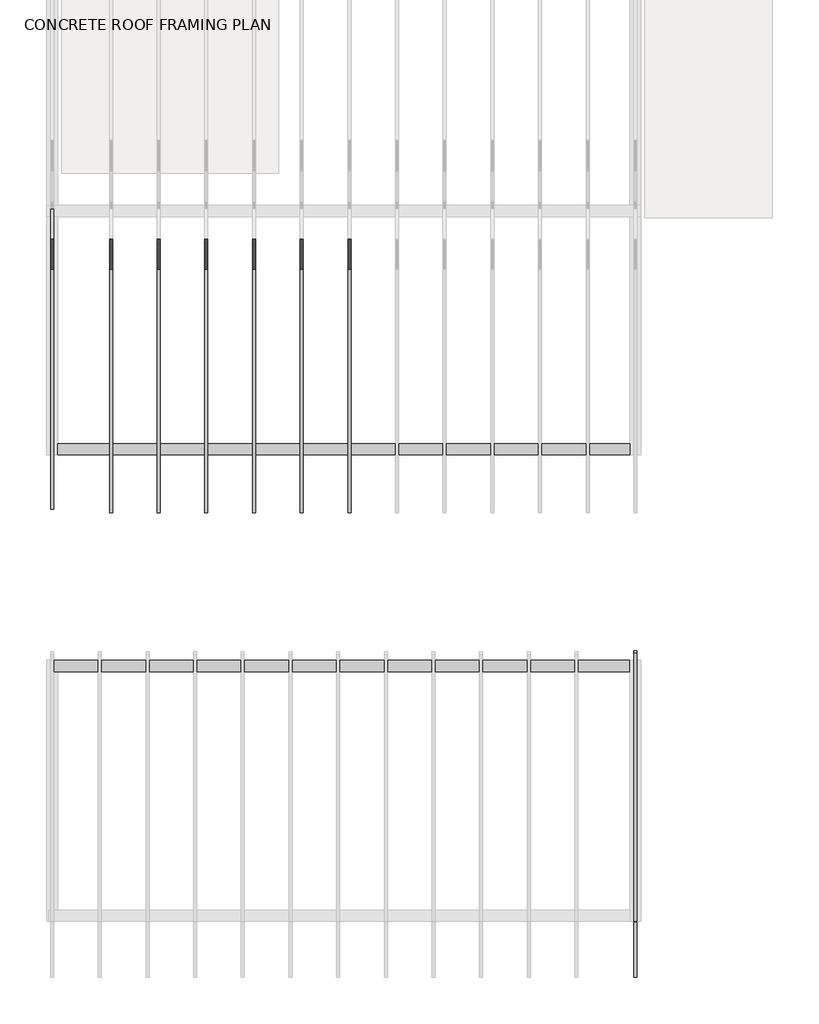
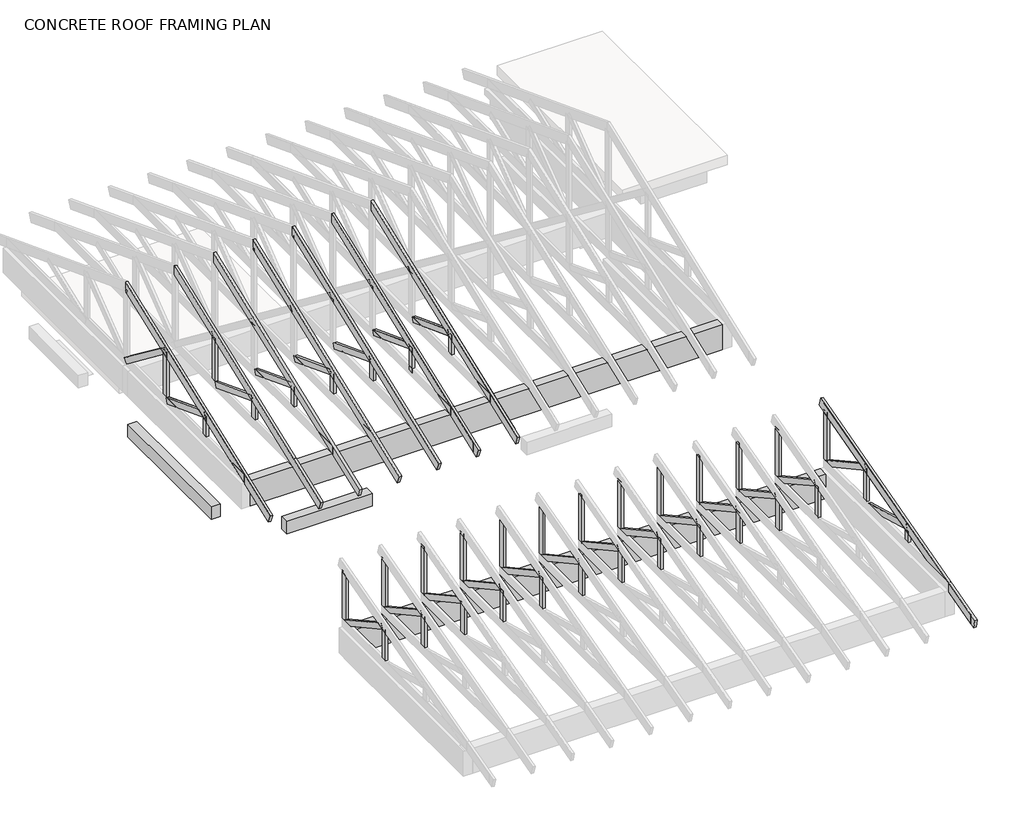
# One storey, part 2 of 6: 70 beams.
"""IFC4 building model written with IfcOpenShell, lengths in millimetres."""

from ifc_helpers import new_model, si_unit, frame, origin, place, context, project, spatial, polyline, outline, extrude, faceted_brep, element, save

model = new_model("IFC4")

# Units and contexts
model_context = context("Model", 3, world=origin())
ifc_project = project(units=[si_unit("LENGTHUNIT", "METRE", prefix="MILLI")], contexts=[model_context])

# Site, building, storey
site = spatial("IfcSite", under=ifc_project)
building = spatial("IfcBuilding", under=site)
storey = spatial("IfcBuildingStorey", under=building, Name="CONCRETE ROOF FRAMING PLAN", Elevation=3048.0)

# Beams
placement = place(None, origin())
element("IfcBeam", 1, ObjectType="Concrete-Rectangular Beam : 5 5/8 x 16", at=placement, inside=storey, context=model_context, shape_type="Brep", body=[
    faceted_brep([(77.7875, -2762.2905437, 2438.4), (77.7875, -2619.4155437, 2438.4), (77.7875, -2619.4155437, 2437.4750123), (77.7875, -2762.2905437, 2437.4750123), (7467.6, -2762.2905437, 2438.4), (7467.6, -2619.4155437, 2438.4), (7467.6, -2619.4155437, 2032.0), (3009.9, -2619.4155437, 2032.0), (152.4, -2619.4155437, 2032.0), (152.4, -2619.4155437, 2437.4750123), (7467.6, -2762.2905437, 2032.0), (3009.9, -2762.2905437, 2032.0), (152.4, -2762.2905437, 2032.0), (152.4, -2762.2905437, 2437.4750123)], [[[0, 1, 2, 3]], [[1, 0, 4, 5]], [[5, 6, 7, 8, 9, 2, 1]], [[6, 10, 11, 12, 8, 7]], [[10, 4, 0, 3, 13, 12, 11]], [[6, 5, 4, 10]], [[13, 9, 8, 12]], [[9, 13, 3, 2]]]),
])
element("IfcBeam", 2, ObjectType="Concrete-Rectangular Beam : 5 5/8 x 16", at=placement, inside=storey, context=model_context, shape_type="Brep", body=[
    faceted_brep([(152.4, 152.4, 3200.4), (152.4, 9.525, 3200.4), (7467.6, 9.525, 3200.4), (7467.6, 152.4, 3200.4), (152.4, 9.525, 2794.0), (3387.725, 9.525, 2794.0), (7467.6, 9.525, 2794.0), (152.4, 152.4, 2794.0), (3387.725, 152.4, 2794.0), (7467.6, 152.4, 2794.0)], [[[0, 1, 2, 3]], [[1, 4, 5, 6, 2]], [[4, 7, 8, 9, 6, 5]], [[7, 0, 3, 9, 8]], [[1, 0, 7, 4]], [[3, 2, 6, 9]]]),
])
element("IfcBeam", 3, ObjectType="Concrete-Rectangular Beam : 5 5/8 x 8", at=placement, inside=storey, context=model_context, shape_type="SweptSolid", body=[
    extrude(outline(polyline([(152.4, 812.8000536), (9.525, 812.8000536), (9.525, 3048.0000536), (152.4, 3048.0000536), (152.4, 812.8000536)])), frame((0.0, 0.0, 2133.6), z_axis=(0.0, 0.0, 1.0), x_axis=(1.0, 0.0, 0.0)), (0.0, 0.0, 1.0), 203.2),
])
element("IfcBeam", 4, ObjectType="Concrete-Rectangular Beam : 5 5/8 x 8", at=placement, inside=storey, context=model_context, shape_type="SweptSolid", body=[
    extrude(outline(polyline([(2041.525, 152.4), (2041.525, 9.525), (720.725, 9.525), (720.725, 152.4), (2041.525, 152.4)])), frame((0.0, 0.0, 2133.6), z_axis=(0.0, 0.0, 1.0), x_axis=(1.0, 0.0, 0.0)), (0.0, 0.0, 1.0), 203.2),
])
element("IfcBeam", 5, ObjectType="Dimension Lumber : 2x4", at=placement, inside=storey, context=model_context, shape_type="SweptSolid", body=[
    extrude(outline(polyline([(61.9125, 2090.7374888), (61.9125, 2179.6374888), (100.0125, 2179.6374888), (100.0125, 2090.7374888), (61.9125, 2090.7374888)])), frame((0.0, 0.0, 3340.1), z_axis=(0.0, 0.0, 1.0), x_axis=(1.0, 0.0, 0.0)), (0.0, 0.0, 1.0), 742.95),
    extrude(outline(polyline([(2179.6374888, 4025.2587321), (2179.6374888, 3340.1), (2090.7374888, 3340.1), (2090.7374888, 3991.2909709), (2179.6374888, 4025.2587321)])), frame((61.9125, 0.0, 0.0), z_axis=(1.0, 0.0, 0.0), x_axis=(0.0, 1.0, 0.0)), (0.0, 0.0, 1.0), 38.1),
])
element("IfcBeam", 6, ObjectType="Dimension Lumber : 2x4", at=placement, inside=storey, context=model_context, shape_type="SweptSolid", body=[
    extrude(outline(polyline([(61.9125, 1027.1124888), (61.9125, 1116.0124888), (100.0125, 1116.0124888), (100.0125, 1027.1124888), (61.9125, 1027.1124888)])), frame((0.0, 0.0, 3340.1), z_axis=(0.0, 0.0, 1.0), x_axis=(1.0, 0.0, 0.0)), (0.0, 0.0, 1.0), 336.55),
    extrude(outline(polyline([(1116.0124888, 3618.8587321), (1116.0124888, 3340.1), (1027.1124888, 3340.1), (1027.1124888, 3584.8909709), (1116.0124888, 3618.8587321)])), frame((61.9125, 0.0, 0.0), z_axis=(1.0, 0.0, 0.0), x_axis=(0.0, 1.0, 0.0)), (0.0, 0.0, 1.0), 38.1),
])
element("IfcBeam", 7, ObjectType="Dimension Lumber : 2x4", at=placement, inside=storey, context=model_context, shape_type="SweptSolid", body=[
    extrude(outline(polyline([(0.0, -38.1), (0.0, 0.0), (1338.6343715, 0.0), (1338.6343715, -38.1), (0.0, -38.1)])), frame((61.9125, 2108.1980727, 4047.7318188), z_axis=(0.0, 0.6071859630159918, 0.7945597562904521), x_axis=(0.0, 0.7945597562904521, -0.6071859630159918)), (0.0, 0.0, 1.0), 88.9),
    extrude(outline(polyline([(2108.1980727, 4047.7318188), (2162.1769048, 4118.3681812), (3180.6137825, 3340.1), (3034.2006481, 3340.1), (2108.1980727, 4047.7318188)])), frame((61.9125, 0.0, 0.0), z_axis=(1.0, 0.0, 0.0), x_axis=(0.0, 1.0, 0.0)), (0.0, 0.0, 1.0), 38.1),
    extrude(outline(polyline([(2249.2253949, 4051.847544), (3180.6137825, 3340.1), (3034.2006481, 3340.1), (2151.6166386, 4014.552258), (2249.2253949, 4051.847544)])), frame((61.9125, 0.0, 0.0), z_axis=(1.0, 0.0, 0.0), x_axis=(0.0, 1.0, 0.0)), (0.0, 0.0, 1.0), 38.1),
])
element("IfcBeam", 8, ObjectType="Dimension Lumber : 2x4", at=placement, inside=storey, context=model_context, shape_type="SweptSolid", body=[
    extrude(outline(polyline([(0.0, -38.1), (0.0, 0.0), (1091.0373938, 0.0), (1091.0373938, -38.1), (0.0, -38.1)])), frame((61.9125, 1055.6972704, 3635.1277488), z_axis=(0.0, 0.35692279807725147, 0.9341338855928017), x_axis=(0.0, 0.9341338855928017, -0.35692279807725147)), (0.0, 0.0, 1.0), 88.9),
    extrude(outline(polyline([(1055.6972704, 3635.1277488), (1087.4277071, 3718.1722512), (2076.9136771, 3340.1), (1827.8402067, 3340.1), (1055.6972704, 3635.1277488)])), frame((61.9125, 0.0, 0.0), z_axis=(1.0, 0.0, 0.0), x_axis=(0.0, 1.0, 0.0)), (0.0, 0.0, 1.0), 38.1),
    extrude(outline(polyline([(1231.6811483, 3663.0545185), (2076.9136771, 3340.1), (1827.8402067, 3340.1), (1107.1444131, 3615.4703331), (1231.6811483, 3663.0545185)])), frame((61.9125, 0.0, 0.0), z_axis=(1.0, 0.0, 0.0), x_axis=(0.0, 1.0, 0.0)), (0.0, 0.0, 1.0), 38.1),
])
element("IfcBeam", 9, ObjectType="Dimension Lumber : 2x4", at=placement, inside=storey, context=model_context, shape_type="SweptSolid", body=[
    extrude(outline(polyline([(7558.0875, -2708.3155437), (7519.9875, -2708.3155437), (7519.9875, -2619.4155437), (7558.0875, -2619.4155437), (7558.0875, -2708.3155437)])), frame((0.0, 0.0, 2578.1), z_axis=(0.0, 0.0, 1.0), x_axis=(1.0, 0.0, 0.0)), (0.0, 0.0, 1.0), 813.3340522),
    extrude(outline(polyline([(-2619.4155437, 3350.2104622), (-2619.4155437, 2578.1), (-2708.3155437, 2578.1), (-2708.3155437, 3325.7799278), (-2619.4155437, 3350.2104622)])), frame((7519.9875, 0.0, 0.0), z_axis=(1.0, 0.0, 0.0), x_axis=(0.0, 1.0, 0.0)), (0.0, 0.0, 1.0), 38.1),
])
element("IfcBeam", 10, ObjectType="Dimension Lumber : 2x4", at=placement, inside=storey, context=model_context, shape_type="SweptSolid", body=[
    extrude(outline(polyline([(7558.0875, -3772.998877), (7519.9875, -3772.998877), (7519.9875, -3684.098877), (7558.0875, -3684.098877), (7558.0875, -3772.998877)])), frame((0.0, 0.0, 2578.1), z_axis=(0.0, 0.0, 1.0), x_axis=(1.0, 0.0, 0.0)), (0.0, 0.0, 1.0), 539.75),
    extrude(outline(polyline([(-3684.098877, 3057.6257293), (-3684.098877, 2578.1), (-3772.998877, 2578.1), (-3772.998877, 3033.195195), (-3684.098877, 3057.6257293)])), frame((7519.9875, 0.0, 0.0), z_axis=(1.0, 0.0, 0.0), x_axis=(0.0, 1.0, 0.0)), (0.0, 0.0, 1.0), 38.1),
])
element("IfcBeam", 11, ObjectType="Dimension Lumber : 2x4", at=placement, inside=storey, context=model_context, shape_type="SweptSolid", body=[
    extrude(outline(polyline([(7558.0875, -4882.1322103), (7519.9875, -4882.1322103), (7519.9875, -4793.2322103), (7558.0875, -4793.2322103), (7558.0875, -4882.1322103)])), frame((0.0, 0.0, 2578.1), z_axis=(0.0, 0.0, 1.0), x_axis=(1.0, 0.0, 0.0)), (0.0, 0.0, 1.0), 188.8521123),
    extrude(outline(polyline([(-4793.2322103, 2752.8257293), (-4793.2322103, 2578.1), (-4882.1322103, 2578.1), (-4882.1322103, 2728.395195), (-4793.2322103, 2752.8257293)])), frame((7519.9875, 0.0, 0.0), z_axis=(1.0, 0.0, 0.0), x_axis=(0.0, 1.0, 0.0)), (0.0, 0.0, 1.0), 38.1),
])
element("IfcBeam", 12, ObjectType="Dimension Lumber : 2x4", at=placement, inside=storey, context=model_context, shape_type="SweptSolid", body=[
    extrude(outline(polyline([(0.0, 38.1), (1214.8966639, 38.1), (1214.8966639, 0.0), (0.0, 0.0), (0.0, 38.1)])), frame((7558.0875, -3749.9587496, 3078.8959263), z_axis=(0.0, 0.4816619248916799, 0.8763571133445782), x_axis=(0.0, 0.8763571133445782, -0.4816619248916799)), (0.0, 0.0, 1.0), 88.9),
    extrude(outline(polyline([(-3579.1593035, 3086.4640854), (-2642.4556711, 2571.634608), (-2685.2754162, 2493.7264607), (-3702.2054976, 3052.6498641), (-3579.1593035, 3086.4640854)])), frame((7519.9875, 0.0, 0.0), z_axis=(1.0, 0.0, 0.0), x_axis=(0.0, 1.0, 0.0)), (0.0, 0.0, 1.0), 38.1),
    extrude(outline(polyline([(-3579.1593035, 3086.4640854), (-2654.2190926, 2578.1), (-2838.7883836, 2578.1), (-3702.2054976, 3052.6498641), (-3579.1593035, 3086.4640854)])), frame((7519.9875, 0.0, 0.0), z_axis=(1.0, 0.0, 0.0), x_axis=(0.0, 1.0, 0.0)), (0.0, 0.0, 1.0), 38.1),
])
element("IfcBeam", 13, ObjectType="Dimension Lumber : 2x4", at=placement, inside=storey, context=model_context, shape_type="SweptSolid", body=[
    extrude(outline(polyline([(0.0, 38.1), (1104.1541677, 38.1), (1104.1541677, 0.0), (0.0, 0.0), (0.0, 38.1)])), frame((7558.0875, -4849.4608113, 2770.1889797), z_axis=(0.0, 0.26498539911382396, 0.964252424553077), x_axis=(0.0, 0.964252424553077, -0.26498539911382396)), (0.0, 0.0, 1.0), 88.9),
    extrude(outline(polyline([(-4622.0099499, 2799.8791749), (-3761.220276, 2563.3262874), (-3784.777478, 2477.6042469), (-4789.7550414, 2753.7812872), (-4622.0099499, 2799.8791749)])), frame((7519.9875, 0.0, 0.0), z_axis=(1.0, 0.0, 0.0), x_axis=(0.0, 1.0, 0.0)), (0.0, 0.0, 1.0), 38.1),
    extrude(outline(polyline([(-4622.0099499, 2799.8791749), (-3814.9801745, 2578.1), (-4150.4703573, 2578.1), (-4789.7550414, 2753.7812872), (-4622.0099499, 2799.8791749)])), frame((7519.9875, 0.0, 0.0), z_axis=(1.0, 0.0, 0.0), x_axis=(0.0, 1.0, 0.0)), (0.0, 0.0, 1.0), 38.1),
])
element("IfcBeam", 14, ObjectType="Dimension Lumber : 2x4", at=placement, inside=storey, context=model_context, shape_type="SweptSolid", body=[
    extrude(outline(polyline([(100.0125, -2708.3155437), (61.9125, -2708.3155437), (61.9125, -2619.4155437), (100.0125, -2619.4155437), (100.0125, -2708.3155437)])), frame((0.0, 0.0, 2578.1), z_axis=(0.0, 0.0, 1.0), x_axis=(1.0, 0.0, 0.0)), (0.0, 0.0, 1.0), 795.6290571),
    extrude(outline(polyline([(-2619.4155437, 3350.2104622), (-2619.4155437, 2578.1), (-2708.3155437, 2578.1), (-2708.3155437, 3325.7799278), (-2619.4155437, 3350.2104622)])), frame((61.9125, 0.0, 0.0), z_axis=(1.0, 0.0, 0.0), x_axis=(0.0, 1.0, 0.0)), (0.0, 0.0, 1.0), 38.1),
])
element("IfcBeam", 15, ObjectType="Dimension Lumber : 2x4", at=placement, inside=storey, context=model_context, shape_type="SweptSolid", body=[
    extrude(outline(polyline([(100.0125, -3772.998877), (61.9125, -3772.998877), (61.9125, -3684.098877), (100.0125, -3684.098877), (100.0125, -3772.998877)])), frame((0.0, 0.0, 2578.1), z_axis=(0.0, 0.0, 1.0), x_axis=(1.0, 0.0, 0.0)), (0.0, 0.0, 1.0), 507.6799177),
    extrude(outline(polyline([(-3684.098877, 3057.6257293), (-3684.098877, 2578.1), (-3772.998877, 2578.1), (-3772.998877, 3033.195195), (-3684.098877, 3057.6257293)])), frame((61.9125, 0.0, 0.0), z_axis=(1.0, 0.0, 0.0), x_axis=(0.0, 1.0, 0.0)), (0.0, 0.0, 1.0), 38.1),
])
element("IfcBeam", 16, ObjectType="Dimension Lumber : 2x4", at=placement, inside=storey, context=model_context, shape_type="SweptSolid", body=[
    extrude(outline(polyline([(0.0, 38.1), (1133.3802377, 38.1), (1133.3802377, 0.0), (0.0, 0.0), (0.0, 38.1)])), frame((100.0125, -3705.5087496, 3054.465392), z_axis=(0.0, 0.4816619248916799, 0.8763571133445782), x_axis=(0.0, 0.8763571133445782, -0.4816619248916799)), (0.0, 0.0, 1.0), 88.9),
    extrude(outline(polyline([(-3662.6890044, 3132.3735393), (-2669.4431711, 2586.4674325), (-2674.0420653, 2578.1), (-2838.7883836, 2578.1), (-3705.5087496, 3054.465392), (-3662.6890044, 3132.3735393)])), frame((61.9125, 0.0, 0.0), z_axis=(1.0, 0.0, 0.0), x_axis=(0.0, 1.0, 0.0)), (0.0, 0.0, 1.0), 38.1),
    extrude(outline(polyline([(-3579.1593035, 3086.4640854), (-2669.4431711, 2586.4674325), (-2674.0420653, 2578.1), (-2838.7883836, 2578.1), (-3702.2054976, 3052.6498641), (-3579.1593035, 3086.4640854)])), frame((61.9125, 0.0, 0.0), z_axis=(1.0, 0.0, 0.0), x_axis=(0.0, 1.0, 0.0)), (0.0, 0.0, 1.0), 38.1),
])
element("IfcBeam", 17, ObjectType="Dimension Lumber : 2x4", at=placement, inside=storey, context=model_context, shape_type="SweptSolid", body=[
    extrude(outline(polyline([(3862.3875, 1027.1124888), (3862.3875, 1116.0124888), (3900.4875, 1116.0124888), (3900.4875, 1027.1124888), (3862.3875, 1027.1124888)])), frame((0.0, 0.0, 3352.8), z_axis=(0.0, 0.0, 1.0), x_axis=(1.0, 0.0, 0.0)), (0.0, 0.0, 1.0), 323.85),
    extrude(outline(polyline([(1116.0124888, 3618.8587321), (1116.0124888, 3352.8), (1027.1124888, 3352.8), (1027.1124888, 3584.8909709), (1116.0124888, 3618.8587321)])), frame((3862.3875, 0.0, 0.0), z_axis=(1.0, 0.0, 0.0), x_axis=(0.0, 1.0, 0.0)), (0.0, 0.0, 1.0), 38.1),
])
element("IfcBeam", 18, ObjectType="Dimension Lumber : 2x4", at=placement, inside=storey, context=model_context, shape_type="SweptSolid", body=[
    extrude(outline(polyline([(0.0, -38.1), (0.0, 0.0), (1032.1068258, 0.0), (1032.1068258, -38.1), (0.0, -38.1)])), frame((3862.3875, 1100.1472704, 3618.1438682), z_axis=(0.0, 0.35692279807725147, 0.9341338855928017), x_axis=(0.0, 0.9341338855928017, -0.35692279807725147)), (0.0, 0.0, 1.0), 88.9),
    extrude(outline(polyline([(1231.6811483, 3663.0545185), (2096.0036667, 3332.8059144), (2064.2732299, 3249.761412), (1107.1444131, 3615.4703331), (1231.6811483, 3663.0545185)])), frame((3862.3875, 0.0, 0.0), z_axis=(1.0, 0.0, 0.0), x_axis=(0.0, 1.0, 0.0)), (0.0, 0.0, 1.0), 38.1),
    extrude(outline(polyline([(1231.6811483, 3663.0545185), (2076.9136771, 3340.1), (1827.8402067, 3340.1), (1107.1444131, 3615.4703331), (1231.6811483, 3663.0545185)])), frame((3862.3875, 0.0, 0.0), z_axis=(1.0, 0.0, 0.0), x_axis=(0.0, 1.0, 0.0)), (0.0, 0.0, 1.0), 38.1),
])
element("IfcBeam", 19, ObjectType="Dimension Lumber : 2x4", at=placement, inside=storey, context=model_context, shape_type="SweptSolid", body=[
    extrude(outline(polyline([(3252.7875, 1027.1124888), (3252.7875, 1116.0124888), (3290.8875, 1116.0124888), (3290.8875, 1027.1124888), (3252.7875, 1027.1124888)])), frame((0.0, 0.0, 3270.25), z_axis=(0.0, 0.0, 1.0), x_axis=(1.0, 0.0, 0.0)), (0.0, 0.0, 1.0), 406.4),
    extrude(outline(polyline([(1116.0124888, 3618.8587321), (1116.0124888, 3270.25), (1027.1124888, 3270.25), (1027.1124888, 3584.8909709), (1116.0124888, 3618.8587321)])), frame((3252.7875, 0.0, 0.0), z_axis=(1.0, 0.0, 0.0), x_axis=(0.0, 1.0, 0.0)), (0.0, 0.0, 1.0), 38.1),
    extrude(outline(polyline([(1116.0124888, 3618.8587321), (1116.0124888, 3340.1), (1027.1124888, 3340.1), (1027.1124888, 3584.8909709), (1116.0124888, 3618.8587321)])), frame((3252.7875, 0.0, 0.0), z_axis=(1.0, 0.0, 0.0), x_axis=(0.0, 1.0, 0.0)), (0.0, 0.0, 1.0), 38.1),
])
element("IfcBeam", 20, ObjectType="Dimension Lumber : 2x4", at=placement, inside=storey, context=model_context, shape_type="SweptSolid", body=[
    extrude(outline(polyline([(0.0, -38.1), (0.0, 0.0), (1032.1068258, 0.0), (1032.1068258, -38.1), (0.0, -38.1)])), frame((3252.7875, 1100.1472704, 3618.1438682), z_axis=(0.0, 0.35692279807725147, 0.9341338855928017), x_axis=(0.0, 0.9341338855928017, -0.35692279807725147)), (0.0, 0.0, 1.0), 88.9),
    extrude(outline(polyline([(1231.6811483, 3663.0545185), (2096.0036667, 3332.8059144), (2064.2732299, 3249.761412), (1107.1444131, 3615.4703331), (1231.6811483, 3663.0545185)])), frame((3252.7875, 0.0, 0.0), z_axis=(1.0, 0.0, 0.0), x_axis=(0.0, 1.0, 0.0)), (0.0, 0.0, 1.0), 38.1),
    extrude(outline(polyline([(1231.6811483, 3663.0545185), (2076.9136771, 3340.1), (1827.8402067, 3340.1), (1107.1444131, 3615.4703331), (1231.6811483, 3663.0545185)])), frame((3252.7875, 0.0, 0.0), z_axis=(1.0, 0.0, 0.0), x_axis=(0.0, 1.0, 0.0)), (0.0, 0.0, 1.0), 38.1),
])
element("IfcBeam", 21, ObjectType="Dimension Lumber : 2x4", at=placement, inside=storey, context=model_context, shape_type="SweptSolid", body=[
    extrude(outline(polyline([(2643.1875, 1027.1124888), (2643.1875, 1116.0124888), (2681.2875, 1116.0124888), (2681.2875, 1027.1124888), (2643.1875, 1027.1124888)])), frame((0.0, 0.0, 3352.8), z_axis=(0.0, 0.0, 1.0), x_axis=(1.0, 0.0, 0.0)), (0.0, 0.0, 1.0), 323.85),
])
element("IfcBeam", 22, ObjectType="Dimension Lumber : 2x4", at=placement, inside=storey, context=model_context, shape_type="SweptSolid", body=[
    extrude(outline(polyline([(0.0, -38.1), (0.0, 0.0), (1032.1068258, 0.0), (1032.1068258, -38.1), (0.0, -38.1)])), frame((2643.1875, 1100.1472704, 3618.1438682), z_axis=(0.0, 0.35692279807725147, 0.9341338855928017), x_axis=(0.0, 0.9341338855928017, -0.35692279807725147)), (0.0, 0.0, 1.0), 88.9),
])
element("IfcBeam", 23, ObjectType="Dimension Lumber : 2x4", at=placement, inside=storey, context=model_context, shape_type="SweptSolid", body=[
    extrude(outline(polyline([(2033.5875, 1027.1124888), (2033.5875, 1116.0124888), (2071.6875, 1116.0124888), (2071.6875, 1027.1124888), (2033.5875, 1027.1124888)])), frame((0.0, 0.0, 3352.8), z_axis=(0.0, 0.0, 1.0), x_axis=(1.0, 0.0, 0.0)), (0.0, 0.0, 1.0), 323.85),
])
element("IfcBeam", 24, ObjectType="Dimension Lumber : 2x4", at=placement, inside=storey, context=model_context, shape_type="SweptSolid", body=[
    extrude(outline(polyline([(0.0, -38.1), (0.0, 0.0), (1032.1068258, 0.0), (1032.1068258, -38.1), (0.0, -38.1)])), frame((2033.5875, 1100.1472704, 3618.1438682), z_axis=(0.0, 0.35692279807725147, 0.9341338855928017), x_axis=(0.0, 0.9341338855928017, -0.35692279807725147)), (0.0, 0.0, 1.0), 88.9),
])
element("IfcBeam", 25, ObjectType="Dimension Lumber : 2x4", at=placement, inside=storey, context=model_context, shape_type="SweptSolid", body=[
    extrude(outline(polyline([(1423.9875, 1027.1124888), (1423.9875, 1116.0124888), (1462.0875, 1116.0124888), (1462.0875, 1027.1124888), (1423.9875, 1027.1124888)])), frame((0.0, 0.0, 3352.8), z_axis=(0.0, 0.0, 1.0), x_axis=(1.0, 0.0, 0.0)), (0.0, 0.0, 1.0), 323.85),
])
element("IfcBeam", 26, ObjectType="Dimension Lumber : 2x4", at=placement, inside=storey, context=model_context, shape_type="SweptSolid", body=[
    extrude(outline(polyline([(0.0, -38.1), (0.0, 0.0), (1032.1068258, 0.0), (1032.1068258, -38.1), (0.0, -38.1)])), frame((1423.9875, 1100.1472704, 3618.1438682), z_axis=(0.0, 0.35692279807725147, 0.9341338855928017), x_axis=(0.0, 0.9341338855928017, -0.35692279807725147)), (0.0, 0.0, 1.0), 88.9),
])
element("IfcBeam", 27, ObjectType="Dimension Lumber : 2x4", at=placement, inside=storey, context=model_context, shape_type="SweptSolid", body=[
    extrude(outline(polyline([(814.3875, 2090.7374888), (814.3875, 2179.6374888), (852.4875, 2179.6374888), (852.4875, 2090.7374888), (814.3875, 2090.7374888)])), frame((0.0, 0.0, 3340.1), z_axis=(0.0, 0.0, 1.0), x_axis=(1.0, 0.0, 0.0)), (0.0, 0.0, 1.0), 702.294826),
])
element("IfcBeam", 28, ObjectType="Dimension Lumber : 2x4", at=placement, inside=storey, context=model_context, shape_type="SweptSolid", body=[
    extrude(outline(polyline([(814.3875, 1027.1124888), (814.3875, 1116.0124888), (852.4875, 1116.0124888), (852.4875, 1027.1124888), (814.3875, 1027.1124888)])), frame((0.0, 0.0, 3352.8), z_axis=(0.0, 0.0, 1.0), x_axis=(1.0, 0.0, 0.0)), (0.0, 0.0, 1.0), 323.85),
])
element("IfcBeam", 29, ObjectType="Dimension Lumber : 2x4", at=placement, inside=storey, context=model_context, shape_type="SweptSolid", body=[
    extrude(outline(polyline([(0.0, -38.1), (0.0, 0.0), (1032.1068258, 0.0), (1032.1068258, -38.1), (0.0, -38.1)])), frame((814.3875, 1100.1472704, 3618.1438682), z_axis=(0.0, 0.35692279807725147, 0.9341338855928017), x_axis=(0.0, 0.9341338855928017, -0.35692279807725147)), (0.0, 0.0, 1.0), 88.9),
])
element("IfcBeam", 30, ObjectType="Dimension Lumber : 2x4", at=placement, inside=storey, context=model_context, shape_type="SweptSolid", body=[
    extrude(outline(polyline([(709.6125, -2708.3155437), (671.5125, -2708.3155437), (671.5125, -2619.4155437), (709.6125, -2619.4155437), (709.6125, -2708.3155437)])), frame((0.0, 0.0, 2578.1), z_axis=(0.0, 0.0, 1.0), x_axis=(1.0, 0.0, 0.0)), (0.0, 0.0, 1.0), 795.6290571),
])
element("IfcBeam", 31, ObjectType="Dimension Lumber : 2x4", at=placement, inside=storey, context=model_context, shape_type="SweptSolid", body=[
    extrude(outline(polyline([(709.6125, -3772.998877), (671.5125, -3772.998877), (671.5125, -3684.098877), (709.6125, -3684.098877), (709.6125, -3772.998877)])), frame((0.0, 0.0, 2578.1), z_axis=(0.0, 0.0, 1.0), x_axis=(1.0, 0.0, 0.0)), (0.0, 0.0, 1.0), 507.6799177),
])
element("IfcBeam", 32, ObjectType="Dimension Lumber : 2x4", at=placement, inside=storey, context=model_context, shape_type="SweptSolid", body=[
    extrude(outline(polyline([(0.0, 38.1), (1133.3802377, 38.1), (1133.3802377, 0.0), (0.0, 0.0), (0.0, 38.1)])), frame((709.6125, -3705.5087496, 3054.465392), z_axis=(0.0, 0.4816619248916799, 0.8763571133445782), x_axis=(0.0, 0.8763571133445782, -0.4816619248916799)), (0.0, 0.0, 1.0), 88.9),
])
element("IfcBeam", 33, ObjectType="Dimension Lumber : 2x4", at=placement, inside=storey, context=model_context, shape_type="SweptSolid", body=[
    extrude(outline(polyline([(1319.2125, -2708.3155437), (1281.1125, -2708.3155437), (1281.1125, -2619.4155437), (1319.2125, -2619.4155437), (1319.2125, -2708.3155437)])), frame((0.0, 0.0, 2578.1), z_axis=(0.0, 0.0, 1.0), x_axis=(1.0, 0.0, 0.0)), (0.0, 0.0, 1.0), 795.6290571),
])
element("IfcBeam", 34, ObjectType="Dimension Lumber : 2x4", at=placement, inside=storey, context=model_context, shape_type="SweptSolid", body=[
    extrude(outline(polyline([(1319.2125, -3772.998877), (1281.1125, -3772.998877), (1281.1125, -3684.098877), (1319.2125, -3684.098877), (1319.2125, -3772.998877)])), frame((0.0, 0.0, 2578.1), z_axis=(0.0, 0.0, 1.0), x_axis=(1.0, 0.0, 0.0)), (0.0, 0.0, 1.0), 507.6799177),
])
element("IfcBeam", 35, ObjectType="Dimension Lumber : 2x4", at=placement, inside=storey, context=model_context, shape_type="SweptSolid", body=[
    extrude(outline(polyline([(0.0, 38.1), (1133.3802377, 38.1), (1133.3802377, 0.0), (0.0, 0.0), (0.0, 38.1)])), frame((1319.2125, -3705.5087496, 3054.465392), z_axis=(0.0, 0.4816619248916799, 0.8763571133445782), x_axis=(0.0, 0.8763571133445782, -0.4816619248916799)), (0.0, 0.0, 1.0), 88.9),
])
element("IfcBeam", 36, ObjectType="Dimension Lumber : 2x4", at=placement, inside=storey, context=model_context, shape_type="SweptSolid", body=[
    extrude(outline(polyline([(1928.8125, -2708.3155437), (1890.7125, -2708.3155437), (1890.7125, -2619.4155437), (1928.8125, -2619.4155437), (1928.8125, -2708.3155437)])), frame((0.0, 0.0, 2578.1), z_axis=(0.0, 0.0, 1.0), x_axis=(1.0, 0.0, 0.0)), (0.0, 0.0, 1.0), 795.6290571),
])
element("IfcBeam", 37, ObjectType="Dimension Lumber : 2x4", at=placement, inside=storey, context=model_context, shape_type="SweptSolid", body=[
    extrude(outline(polyline([(1928.8125, -3772.998877), (1890.7125, -3772.998877), (1890.7125, -3684.098877), (1928.8125, -3684.098877), (1928.8125, -3772.998877)])), frame((0.0, 0.0, 2578.1), z_axis=(0.0, 0.0, 1.0), x_axis=(1.0, 0.0, 0.0)), (0.0, 0.0, 1.0), 507.6799177),
])
element("IfcBeam", 38, ObjectType="Dimension Lumber : 2x4", at=placement, inside=storey, context=model_context, shape_type="SweptSolid", body=[
    extrude(outline(polyline([(0.0, 38.1), (1133.3802377, 38.1), (1133.3802377, 0.0), (0.0, 0.0), (0.0, 38.1)])), frame((1928.8125, -3705.5087496, 3054.465392), z_axis=(0.0, 0.4816619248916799, 0.8763571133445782), x_axis=(0.0, 0.8763571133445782, -0.4816619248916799)), (0.0, 0.0, 1.0), 88.9),
])
element("IfcBeam", 39, ObjectType="Dimension Lumber : 2x4", at=placement, inside=storey, context=model_context, shape_type="SweptSolid", body=[
    extrude(outline(polyline([(2538.4125, -2708.3155437), (2500.3125, -2708.3155437), (2500.3125, -2619.4155437), (2538.4125, -2619.4155437), (2538.4125, -2708.3155437)])), frame((0.0, 0.0, 2578.1), z_axis=(0.0, 0.0, 1.0), x_axis=(1.0, 0.0, 0.0)), (0.0, 0.0, 1.0), 795.6290571),
])
element("IfcBeam", 40, ObjectType="Dimension Lumber : 2x4", at=placement, inside=storey, context=model_context, shape_type="SweptSolid", body=[
    extrude(outline(polyline([(2538.4125, -3772.998877), (2500.3125, -3772.998877), (2500.3125, -3684.098877), (2538.4125, -3684.098877), (2538.4125, -3772.998877)])), frame((0.0, 0.0, 2578.1), z_axis=(0.0, 0.0, 1.0), x_axis=(1.0, 0.0, 0.0)), (0.0, 0.0, 1.0), 507.6799177),
])
element("IfcBeam", 41, ObjectType="Dimension Lumber : 2x4", at=placement, inside=storey, context=model_context, shape_type="SweptSolid", body=[
    extrude(outline(polyline([(0.0, 38.1), (1133.3802377, 38.1), (1133.3802377, 0.0), (0.0, 0.0), (0.0, 38.1)])), frame((2538.4125, -3705.5087496, 3054.465392), z_axis=(0.0, 0.4816619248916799, 0.8763571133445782), x_axis=(0.0, 0.8763571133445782, -0.4816619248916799)), (0.0, 0.0, 1.0), 88.9),
])
element("IfcBeam", 42, ObjectType="Dimension Lumber : 2x4", at=placement, inside=storey, context=model_context, shape_type="SweptSolid", body=[
    extrude(outline(polyline([(3148.0125, -2708.3155437), (3109.9125, -2708.3155437), (3109.9125, -2619.4155437), (3148.0125, -2619.4155437), (3148.0125, -2708.3155437)])), frame((0.0, 0.0, 2578.1), z_axis=(0.0, 0.0, 1.0), x_axis=(1.0, 0.0, 0.0)), (0.0, 0.0, 1.0), 795.6290571),
])
element("IfcBeam", 43, ObjectType="Dimension Lumber : 2x4", at=placement, inside=storey, context=model_context, shape_type="SweptSolid", body=[
    extrude(outline(polyline([(3148.0125, -3772.998877), (3109.9125, -3772.998877), (3109.9125, -3684.098877), (3148.0125, -3684.098877), (3148.0125, -3772.998877)])), frame((0.0, 0.0, 2578.1), z_axis=(0.0, 0.0, 1.0), x_axis=(1.0, 0.0, 0.0)), (0.0, 0.0, 1.0), 507.6799177),
])
element("IfcBeam", 44, ObjectType="Dimension Lumber : 2x4", at=placement, inside=storey, context=model_context, shape_type="SweptSolid", body=[
    extrude(outline(polyline([(0.0, 38.1), (1133.3802377, 38.1), (1133.3802377, 0.0), (0.0, 0.0), (0.0, 38.1)])), frame((3148.0125, -3705.5087496, 3054.465392), z_axis=(0.0, 0.4816619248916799, 0.8763571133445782), x_axis=(0.0, 0.8763571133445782, -0.4816619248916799)), (0.0, 0.0, 1.0), 88.9),
])
element("IfcBeam", 45, ObjectType="Dimension Lumber : 2x4", at=placement, inside=storey, context=model_context, shape_type="SweptSolid", body=[
    extrude(outline(polyline([(3757.6125, -2708.3155437), (3719.5125, -2708.3155437), (3719.5125, -2619.4155437), (3757.6125, -2619.4155437), (3757.6125, -2708.3155437)])), frame((0.0, 0.0, 2578.1), z_axis=(0.0, 0.0, 1.0), x_axis=(1.0, 0.0, 0.0)), (0.0, 0.0, 1.0), 795.6290571),
])
element("IfcBeam", 46, ObjectType="Dimension Lumber : 2x4", at=placement, inside=storey, context=model_context, shape_type="SweptSolid", body=[
    extrude(outline(polyline([(3757.6125, -3772.998877), (3719.5125, -3772.998877), (3719.5125, -3684.098877), (3757.6125, -3684.098877), (3757.6125, -3772.998877)])), frame((0.0, 0.0, 2578.1), z_axis=(0.0, 0.0, 1.0), x_axis=(1.0, 0.0, 0.0)), (0.0, 0.0, 1.0), 507.6799177),
])
element("IfcBeam", 47, ObjectType="Dimension Lumber : 2x4", at=placement, inside=storey, context=model_context, shape_type="SweptSolid", body=[
    extrude(outline(polyline([(0.0, 38.1), (1133.3802377, 38.1), (1133.3802377, 0.0), (0.0, 0.0), (0.0, 38.1)])), frame((3757.6125, -3705.5087496, 3054.465392), z_axis=(0.0, 0.4816619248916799, 0.8763571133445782), x_axis=(0.0, 0.8763571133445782, -0.4816619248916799)), (0.0, 0.0, 1.0), 88.9),
])
element("IfcBeam", 48, ObjectType="Dimension Lumber : 2x4", at=placement, inside=storey, context=model_context, shape_type="SweptSolid", body=[
    extrude(outline(polyline([(4367.2125, -2708.3155437), (4329.1125, -2708.3155437), (4329.1125, -2619.4155437), (4367.2125, -2619.4155437), (4367.2125, -2708.3155437)])), frame((0.0, 0.0, 2578.1), z_axis=(0.0, 0.0, 1.0), x_axis=(1.0, 0.0, 0.0)), (0.0, 0.0, 1.0), 795.6290571),
])
element("IfcBeam", 49, ObjectType="Dimension Lumber : 2x4", at=placement, inside=storey, context=model_context, shape_type="SweptSolid", body=[
    extrude(outline(polyline([(4367.2125, -3772.998877), (4329.1125, -3772.998877), (4329.1125, -3684.098877), (4367.2125, -3684.098877), (4367.2125, -3772.998877)])), frame((0.0, 0.0, 2578.1), z_axis=(0.0, 0.0, 1.0), x_axis=(1.0, 0.0, 0.0)), (0.0, 0.0, 1.0), 507.6799177),
])
element("IfcBeam", 50, ObjectType="Dimension Lumber : 2x4", at=placement, inside=storey, context=model_context, shape_type="SweptSolid", body=[
    extrude(outline(polyline([(0.0, 38.1), (1133.3802377, 38.1), (1133.3802377, 0.0), (0.0, 0.0), (0.0, 38.1)])), frame((4367.2125, -3705.5087496, 3054.465392), z_axis=(0.0, 0.4816619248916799, 0.8763571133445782), x_axis=(0.0, 0.8763571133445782, -0.4816619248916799)), (0.0, 0.0, 1.0), 88.9),
])
element("IfcBeam", 51, ObjectType="Dimension Lumber : 2x4", at=placement, inside=storey, context=model_context, shape_type="SweptSolid", body=[
    extrude(outline(polyline([(4976.8125, -2708.3155437), (4938.7125, -2708.3155437), (4938.7125, -2619.4155437), (4976.8125, -2619.4155437), (4976.8125, -2708.3155437)])), frame((0.0, 0.0, 2578.1), z_axis=(0.0, 0.0, 1.0), x_axis=(1.0, 0.0, 0.0)), (0.0, 0.0, 1.0), 795.6290571),
])
element("IfcBeam", 52, ObjectType="Dimension Lumber : 2x4", at=placement, inside=storey, context=model_context, shape_type="SweptSolid", body=[
    extrude(outline(polyline([(4976.8125, -3772.998877), (4938.7125, -3772.998877), (4938.7125, -3684.098877), (4976.8125, -3684.098877), (4976.8125, -3772.998877)])), frame((0.0, 0.0, 2578.1), z_axis=(0.0, 0.0, 1.0), x_axis=(1.0, 0.0, 0.0)), (0.0, 0.0, 1.0), 507.6799177),
])
element("IfcBeam", 53, ObjectType="Dimension Lumber : 2x4", at=placement, inside=storey, context=model_context, shape_type="SweptSolid", body=[
    extrude(outline(polyline([(0.0, 38.1), (1133.3802377, 38.1), (1133.3802377, 0.0), (0.0, 0.0), (0.0, 38.1)])), frame((4976.8125, -3705.5087496, 3054.465392), z_axis=(0.0, 0.4816619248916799, 0.8763571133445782), x_axis=(0.0, 0.8763571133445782, -0.4816619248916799)), (0.0, 0.0, 1.0), 88.9),
])
element("IfcBeam", 54, ObjectType="Dimension Lumber : 2x4", at=placement, inside=storey, context=model_context, shape_type="SweptSolid", body=[
    extrude(outline(polyline([(5586.4125, -2708.3155437), (5548.3125, -2708.3155437), (5548.3125, -2619.4155437), (5586.4125, -2619.4155437), (5586.4125, -2708.3155437)])), frame((0.0, 0.0, 2578.1), z_axis=(0.0, 0.0, 1.0), x_axis=(1.0, 0.0, 0.0)), (0.0, 0.0, 1.0), 795.6290571),
])
element("IfcBeam", 55, ObjectType="Dimension Lumber : 2x4", at=placement, inside=storey, context=model_context, shape_type="SweptSolid", body=[
    extrude(outline(polyline([(5586.4125, -3772.998877), (5548.3125, -3772.998877), (5548.3125, -3684.098877), (5586.4125, -3684.098877), (5586.4125, -3772.998877)])), frame((0.0, 0.0, 2578.1), z_axis=(0.0, 0.0, 1.0), x_axis=(1.0, 0.0, 0.0)), (0.0, 0.0, 1.0), 507.6799177),
])
element("IfcBeam", 56, ObjectType="Dimension Lumber : 2x4", at=placement, inside=storey, context=model_context, shape_type="SweptSolid", body=[
    extrude(outline(polyline([(0.0, 38.1), (1133.3802377, 38.1), (1133.3802377, 0.0), (0.0, 0.0), (0.0, 38.1)])), frame((5586.4125, -3705.5087496, 3054.465392), z_axis=(0.0, 0.4816619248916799, 0.8763571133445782), x_axis=(0.0, 0.8763571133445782, -0.4816619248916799)), (0.0, 0.0, 1.0), 88.9),
])
element("IfcBeam", 57, ObjectType="Dimension Lumber : 2x4", at=placement, inside=storey, context=model_context, shape_type="SweptSolid", body=[
    extrude(outline(polyline([(6196.0125, -2708.3155437), (6157.9125, -2708.3155437), (6157.9125, -2619.4155437), (6196.0125, -2619.4155437), (6196.0125, -2708.3155437)])), frame((0.0, 0.0, 2578.1), z_axis=(0.0, 0.0, 1.0), x_axis=(1.0, 0.0, 0.0)), (0.0, 0.0, 1.0), 795.6290571),
])
element("IfcBeam", 58, ObjectType="Dimension Lumber : 2x4", at=placement, inside=storey, context=model_context, shape_type="SweptSolid", body=[
    extrude(outline(polyline([(6196.0125, -3772.998877), (6157.9125, -3772.998877), (6157.9125, -3684.098877), (6196.0125, -3684.098877), (6196.0125, -3772.998877)])), frame((0.0, 0.0, 2578.1), z_axis=(0.0, 0.0, 1.0), x_axis=(1.0, 0.0, 0.0)), (0.0, 0.0, 1.0), 507.6799177),
])
element("IfcBeam", 59, ObjectType="Dimension Lumber : 2x4", at=placement, inside=storey, context=model_context, shape_type="SweptSolid", body=[
    extrude(outline(polyline([(0.0, 38.1), (1133.3802377, 38.1), (1133.3802377, 0.0), (0.0, 0.0), (0.0, 38.1)])), frame((6196.0125, -3705.5087496, 3054.465392), z_axis=(0.0, 0.4816619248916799, 0.8763571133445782), x_axis=(0.0, 0.8763571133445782, -0.4816619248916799)), (0.0, 0.0, 1.0), 88.9),
])
element("IfcBeam", 60, ObjectType="Dimension Lumber : 2x4", at=placement, inside=storey, context=model_context, shape_type="SweptSolid", body=[
    extrude(outline(polyline([(6805.6125, -2708.3155437), (6767.5125, -2708.3155437), (6767.5125, -2619.4155437), (6805.6125, -2619.4155437), (6805.6125, -2708.3155437)])), frame((0.0, 0.0, 2578.1), z_axis=(0.0, 0.0, 1.0), x_axis=(1.0, 0.0, 0.0)), (0.0, 0.0, 1.0), 795.6290571),
])
element("IfcBeam", 61, ObjectType="Dimension Lumber : 2x4", at=placement, inside=storey, context=model_context, shape_type="SweptSolid", body=[
    extrude(outline(polyline([(6805.6125, -3772.998877), (6767.5125, -3772.998877), (6767.5125, -3684.098877), (6805.6125, -3684.098877), (6805.6125, -3772.998877)])), frame((0.0, 0.0, 2578.1), z_axis=(0.0, 0.0, 1.0), x_axis=(1.0, 0.0, 0.0)), (0.0, 0.0, 1.0), 507.6799177),
])
element("IfcBeam", 62, ObjectType="Dimension Lumber : 2x4", at=placement, inside=storey, context=model_context, shape_type="SweptSolid", body=[
    extrude(outline(polyline([(0.0, 38.1), (1133.3802377, 38.1), (1133.3802377, 0.0), (0.0, 0.0), (0.0, 38.1)])), frame((6805.6125, -3705.5087496, 3054.465392), z_axis=(0.0, 0.4816619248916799, 0.8763571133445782), x_axis=(0.0, 0.8763571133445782, -0.4816619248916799)), (0.0, 0.0, 1.0), 88.9),
])
element("IfcBeam", 63, ObjectType="Dimension Lumber : 2x6", at=placement, inside=storey, context=model_context, shape_type="SweptSolid", body=[
    extrude(outline(polyline([(-634.0584607, 2950.1749066), (-683.9205756, 3080.6734105), (3198.8124888, 4564.2251485), (3198.8124888, 4414.6748515), (-634.0584607, 2950.1749066)])), frame((61.9125, 0.0, 0.0), z_axis=(1.0, 0.0, 0.0), x_axis=(0.0, 1.0, 0.0)), (0.0, 0.0, 1.0), 38.1),
    extrude(outline(polyline([(-603.2500225, 3111.496786), (3198.8124888, 4564.2251485), (3198.8124888, 4414.6748515), (-603.2500225, 2961.946489), (-603.2500225, 3111.496786)])), frame((61.9125, 0.0, 0.0), z_axis=(1.0, 0.0, 0.0), x_axis=(0.0, 1.0, 0.0)), (0.0, 0.0, 1.0), 38.1),
])
element("IfcBeam", 64, ObjectType="Dimension Lumber : 2x6", at=placement, inside=storey, context=model_context, shape_type="SweptSolid", body=[
    extrude(outline(polyline([(0.0, 38.1), (4293.5856194, 38.1), (4293.5856194, 0.0), (0.0, 0.0), (0.0, 38.1)])), frame((7558.0875, -6632.9412504, 2247.2568328), z_axis=(0.0, -0.2649853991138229, 0.9642524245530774), x_axis=(0.0, 0.9642524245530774, 0.2649853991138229)), (0.0, 0.0, 1.0), 139.7),
    extrude(outline(polyline([(-6562.7655549, 2411.4208325), (-2529.8593672, 3519.7003955), (-2492.8409069, 3384.9943318), (-6562.7655549, 2266.5417568), (-6562.7655549, 2411.4208325)])), frame((7519.9875, 0.0, 0.0), z_axis=(1.0, 0.0, 0.0), x_axis=(0.0, 1.0, 0.0)), (0.0, 0.0, 1.0), 38.1),
    extrude(outline(polyline([(-6562.7655549, 2411.4208325), (-2619.4155437, 3495.0895378), (-2619.4155437, 3350.2104622), (-6562.7655549, 2266.5417568), (-6562.7655549, 2411.4208325)])), frame((7519.9875, 0.0, 0.0), z_axis=(1.0, 0.0, 0.0), x_axis=(0.0, 1.0, 0.0)), (0.0, 0.0, 1.0), 38.1),
])
element("IfcBeam", 65, ObjectType="Dimension Lumber : 2x6", at=placement, inside=storey, context=model_context, shape_type="SweptSolid", body=[
    extrude(outline(polyline([(-681.7545007, 2931.9507481), (-731.6166155, 3062.4492519), (3198.8124888, 4564.2251485), (3198.8124888, 4414.6748515), (-681.7545007, 2931.9507481)])), frame((3862.3875, 0.0, 0.0), z_axis=(1.0, 0.0, 0.0), x_axis=(0.0, 1.0, 0.0)), (0.0, 0.0, 1.0), 38.1),
    extrude(outline(polyline([(-603.2500225, 3111.496786), (3198.8124888, 4564.2251485), (3198.8124888, 4414.6748515), (-603.2500225, 2961.946489), (-603.2500225, 3111.496786)])), frame((3862.3875, 0.0, 0.0), z_axis=(1.0, 0.0, 0.0), x_axis=(0.0, 1.0, 0.0)), (0.0, 0.0, 1.0), 38.1),
])
element("IfcBeam", 66, ObjectType="Dimension Lumber : 2x6", at=placement, inside=storey, context=model_context, shape_type="SweptSolid", body=[
    extrude(outline(polyline([(-681.7545007, 2931.9507481), (-731.6166155, 3062.4492519), (3198.8124888, 4564.2251485), (3198.8124888, 4414.6748515), (-681.7545007, 2931.9507481)])), frame((3252.7875, 0.0, 0.0), z_axis=(1.0, 0.0, 0.0), x_axis=(0.0, 1.0, 0.0)), (0.0, 0.0, 1.0), 38.1),
    extrude(outline(polyline([(-603.2500225, 3111.496786), (3198.8124888, 4564.2251485), (3198.8124888, 4414.6748515), (-603.2500225, 2961.946489), (-603.2500225, 3111.496786)])), frame((3252.7875, 0.0, 0.0), z_axis=(1.0, 0.0, 0.0), x_axis=(0.0, 1.0, 0.0)), (0.0, 0.0, 1.0), 38.1),
])
element("IfcBeam", 67, ObjectType="Dimension Lumber : 2x6", at=placement, inside=storey, context=model_context, shape_type="SweptSolid", body=[
    extrude(outline(polyline([(-681.7545007, 2931.9507481), (-731.6166155, 3062.4492519), (3198.8124888, 4564.2251485), (3198.8124888, 4414.6748515), (-681.7545007, 2931.9507481)])), frame((2643.1875, 0.0, 0.0), z_axis=(1.0, 0.0, 0.0), x_axis=(0.0, 1.0, 0.0)), (0.0, 0.0, 1.0), 38.1),
])
element("IfcBeam", 68, ObjectType="Dimension Lumber : 2x6", at=placement, inside=storey, context=model_context, shape_type="SweptSolid", body=[
    extrude(outline(polyline([(-681.7545007, 2931.9507481), (-731.6166155, 3062.4492519), (3198.8124888, 4564.2251485), (3198.8124888, 4414.6748515), (-681.7545007, 2931.9507481)])), frame((2033.5875, 0.0, 0.0), z_axis=(1.0, 0.0, 0.0), x_axis=(0.0, 1.0, 0.0)), (0.0, 0.0, 1.0), 38.1),
])
element("IfcBeam", 69, ObjectType="Dimension Lumber : 2x6", at=placement, inside=storey, context=model_context, shape_type="SweptSolid", body=[
    extrude(outline(polyline([(-681.7545007, 2931.9507481), (-731.6166155, 3062.4492519), (3198.8124888, 4564.2251485), (3198.8124888, 4414.6748515), (-681.7545007, 2931.9507481)])), frame((1423.9875, 0.0, 0.0), z_axis=(1.0, 0.0, 0.0), x_axis=(0.0, 1.0, 0.0)), (0.0, 0.0, 1.0), 38.1),
])
element("IfcBeam", 70, ObjectType="Dimension Lumber : 2x6", at=placement, inside=storey, context=model_context, shape_type="SweptSolid", body=[
    extrude(outline(polyline([(-681.7545007, 2931.9507481), (-731.6166155, 3062.4492519), (3198.8124888, 4564.2251485), (3198.8124888, 4414.6748515), (-681.7545007, 2931.9507481)])), frame((814.3875, 0.0, 0.0), z_axis=(1.0, 0.0, 0.0), x_axis=(0.0, 1.0, 0.0)), (0.0, 0.0, 1.0), 38.1),
])

save(model, "model.ifc")
